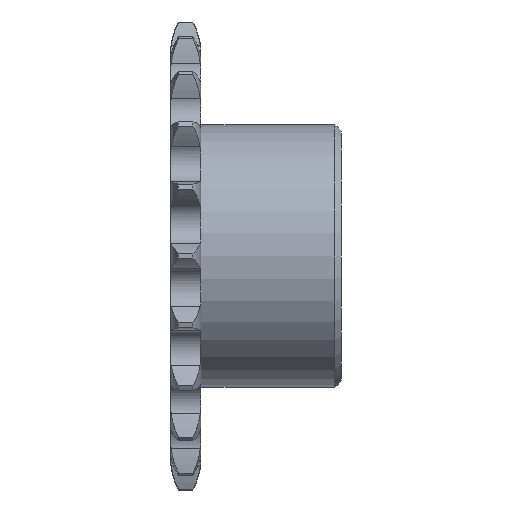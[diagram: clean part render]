
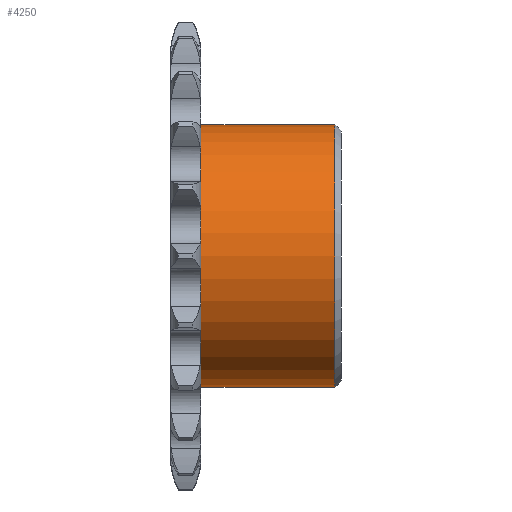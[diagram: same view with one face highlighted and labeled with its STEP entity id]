
A CAD part, front view. The second image highlights one B-rep face of the part: STEP entity #4250.
In plain terms, the highlighted cylindrical face has radius 10 mm (diameter 20 mm), a full revolution.
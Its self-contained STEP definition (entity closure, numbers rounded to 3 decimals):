
#360=CYLINDRICAL_SURFACE('',#4711,10.);
#582=FACE_OUTER_BOUND('',#813,.T.);
#813=EDGE_LOOP('',(#3955,#3956,#3957,#3958));
#1031=CIRCLE('',#4688,10.);
#1032=CIRCLE('',#4712,10.);
#1302=LINE('',#8007,#1572);
#1572=VECTOR('',#5857,10.);
#2006=VERTEX_POINT('',#7980);
#2007=VERTEX_POINT('',#8005);
#2656=EDGE_CURVE('',#2006,#2006,#1031,.T.);
#2657=EDGE_CURVE('',#2007,#2007,#1032,.T.);
#2658=EDGE_CURVE('',#2007,#2006,#1302,.T.);
#3955=ORIENTED_EDGE('',*,*,#2657,.F.);
#3956=ORIENTED_EDGE('',*,*,#2658,.T.);
#3957=ORIENTED_EDGE('',*,*,#2656,.T.);
#3958=ORIENTED_EDGE('',*,*,#2658,.F.);
#4250=ADVANCED_FACE('',(#582),#360,.T.);
#4688=AXIS2_PLACEMENT_3D('',#7981,#5807,#5808);
#4711=AXIS2_PLACEMENT_3D('',#8004,#5853,#5854);
#4712=AXIS2_PLACEMENT_3D('',#8006,#5855,#5856);
#5807=DIRECTION('center_axis',(1.,0.,0.));
#5808=DIRECTION('ref_axis',(0.,0.,-1.));
#5853=DIRECTION('center_axis',(1.,0.,0.));
#5854=DIRECTION('ref_axis',(0.,1.,0.));
#5855=DIRECTION('center_axis',(1.,0.,0.));
#5856=DIRECTION('ref_axis',(0.,0.,-1.));
#5857=DIRECTION('',(-1.,0.,0.));
#7980=CARTESIAN_POINT('',(2.3,-10.,0.));
#7981=CARTESIAN_POINT('Origin',(2.3,0.,0.));
#8004=CARTESIAN_POINT('Origin',(7.4,0.,0.));
#8005=CARTESIAN_POINT('',(12.5,-10.,0.));
#8006=CARTESIAN_POINT('Origin',(12.5,0.,0.));
#8007=CARTESIAN_POINT('',(7.4,-10.,0.));
